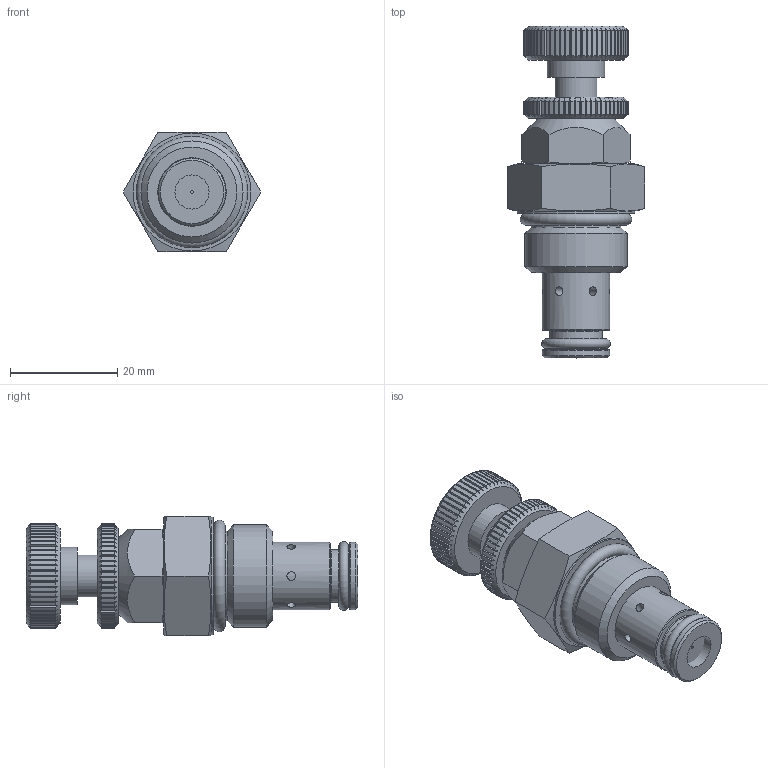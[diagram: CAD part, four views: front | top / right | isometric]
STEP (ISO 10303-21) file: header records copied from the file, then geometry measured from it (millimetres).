
FILE_DESCRIPTION(/* description */ (''),/* implementation_level */ '2;1');
FILE_NAME(/* name */ 'C:\Users\mcooper\OneDrive - Deltrol Corporation\Desktop\DFP_Docs\Deltrol\Training_Research_Presentations\Bucher DFRA_DFRA2\DFRA2-080-2.stp',/* time_stamp */ '2026-03-24T11:43:26-04:00',/* author */ ('mcooper'),/* organization */ (''),/* preprocessor_version */ 'ST-DEVELOPER v18',/* originating_system */ 'Autodesk Inventor 2020',/* authorisation */ '');
FILE_SCHEMA (('AUTOMOTIVE_DESIGN { 1 0 10303 214 3 1 1 }'));
Length unit declared in the file: inch
Products named in the file (1): 10320-76_1
Bounding box: 25.66 x 61.93 x 22.23 mm (x, y, z)
Volume: 15505.9 mm3; surface area: 10800.8 mm2
Topology: 10 solids, 10 shells, 1045 faces, 3018 edges, 2030 vertices
Faces by surface type: plane 696, cylinder 190, bspline 105, cone 39, torus 15
Full cylindrical faces by diameter (mm): 0.533 x1, 0.762 x2, 1.524 x1, 1.6 x6, 2.388 x1, 3.734 x1, 4.445 x1, 4.648 x2, 4.724 x1, 4.801 x1, 4.978 x1, 5.359 x1, 5.461 x1, 6.35 x2, 6.358 x1, 7.087 x1, 7.099 x1, 7.137 x2, 7.341 x1, 7.837 x1, 9.83 x1, 10.795 x1, 10.833 x1, 10.922 x1, 11.455 x1, 12.598 x2, 12.7 x1, 16.764 x1, 19.05 x1, 21.971 x1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
Entity records: 35794 total; most frequent: CARTESIAN_POINT 9471, ORIENTED_EDGE 6036, DIRECTION 4509, EDGE_CURVE 3018, VERTEX_POINT 2030, AXIS2_PLACEMENT_3D 1540, LINE 1429, VECTOR 1429
